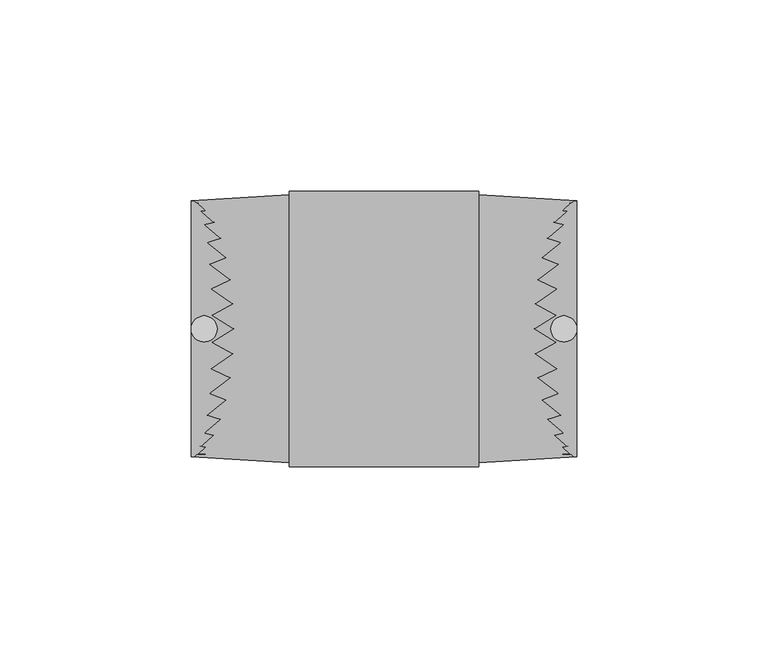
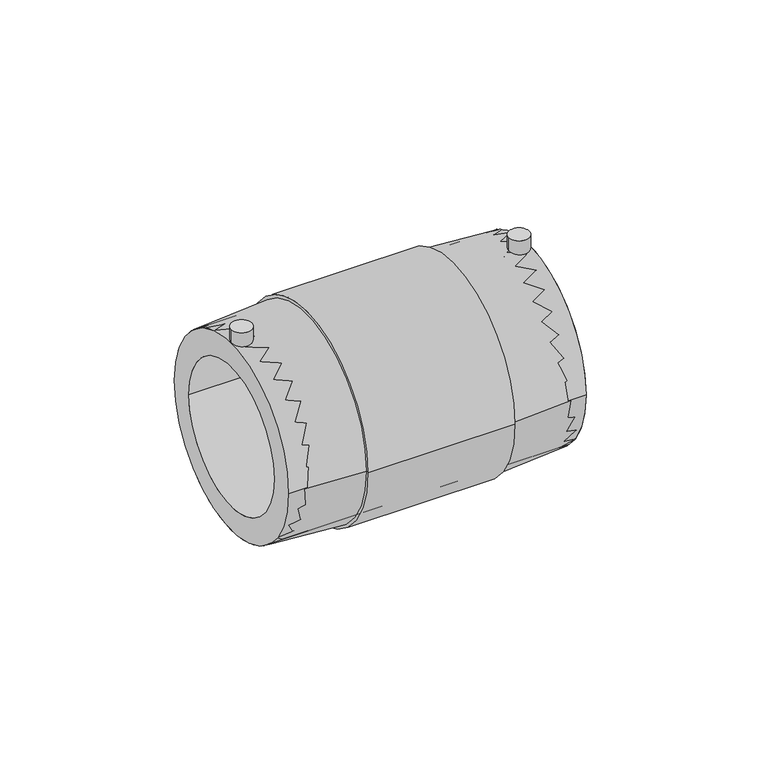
"""IFC4 building model written with IfcOpenShell, lengths in millimetres: pipe fitting geometry, EGB_VASEN_ PPR_Manguito electrosoldable WXRD100 : Manguito electrosoldable WXRD100."""

from ifc_helpers import new_model, si_unit, point, frame, frame_2d, origin, origin_2d, place, context, project, spatial, polyline, circle_curve, trimmed, segment, composite_curve, outline, extrude, source, transform, mapped, element, save
from ifc_brep_helpers import plane_surface, cylinder_surface, revolved_surface, advanced_brep


def pipe_fitting_bd761301(model_context):
    return source(origin(), model_context, "Body", "SolidModel", [
        extrude(outline(composite_curve([segment(trimmed(circle_curve(origin_2d(), 33.5), [point((-33.5, 0.0))], [point((33.5, 0.0))], False, "CARTESIAN"), True, "CONTINUOUS"), segment(trimmed(circle_curve(origin_2d(), 33.5), [point((33.5, 0.0))], [point((-33.5, 0.0))], False, "CARTESIAN"), True, "CONTINUOUS")], self_intersect=False), holes=[composite_curve([segment(trimmed(circle_curve(origin_2d(), 25.0), [point((-25.0, 0.0))], [point((25.0, 0.0))], True, "CARTESIAN"), True, "CONTINUOUS"), segment(trimmed(circle_curve(origin_2d(), 25.0), [point((25.0, 0.0))], [point((-25.0, 0.0))], True, "CARTESIAN"), True, "CONTINUOUS")], self_intersect=False)]), frame((-50.5, 0.0, 0.0), z_axis=(1.0, 0.0, 0.0), x_axis=(0.0, 1.0, 0.0)), (0.0, 0.0, 1.0), 101.0),
        extrude(outline(composite_curve([segment(trimmed(circle_curve(frame_2d((-47.0878802, 0.0)), 3.4121198), [point((-50.5, 0.0))], [point((-43.6757605, 0.0))], False, "CARTESIAN"), True, "CONTINUOUS"), segment(trimmed(circle_curve(frame_2d((-47.0878802, 0.0)), 3.4121198), [point((-43.6757605, 0.0))], [point((-50.5, 0.0))], False, "CARTESIAN"), True, "CONTINUOUS")], self_intersect=False)), frame((0.0, 0.0, 27.0), z_axis=(0.0, 0.0, 1.0), x_axis=(1.0, 0.0, 0.0)), (0.0, 0.0, 1.0), 11.5),
        extrude(outline(composite_curve([segment(trimmed(circle_curve(frame_2d((47.0878802, 0.0)), 3.4121198), [point((43.6757605, 0.0))], [point((50.5, 0.0))], False, "CARTESIAN"), True, "CONTINUOUS"), segment(trimmed(circle_curve(frame_2d((47.0878802, 0.0)), 3.4121198), [point((50.5, 0.0))], [point((43.6757605, 0.0))], False, "CARTESIAN"), True, "CONTINUOUS")], self_intersect=False)), frame((0.0, 0.0, 27.0), z_axis=(0.0, 0.0, 1.0), x_axis=(1.0, 0.0, 0.0)), (0.0, 0.0, 1.0), 11.5),
        advanced_brep(
        [(24.85, -35.082849, 0.0), (24.85, 35.082849, 0.0), (50.5, 33.5, 0.0), (50.5, -33.5, 0.0), (24.85, -36.082849, 0.0), (24.85, 36.082849, 0.0), (-24.85, -36.082849, 0.0), (-24.85, 36.082849, 0.0), (-24.85, -35.082849, 0.0), (-24.85, 35.082849, 0.0), (-50.5, -33.5, 0.0), (-50.5, 33.5, 0.0)],
        [
            (0, 1, circle_curve(frame((24.85, 0.0, 0.0), z_axis=(1.0, 0.0, 0.0), x_axis=(0.0, 1.0, 0.0)), 35.082849)),
            (1, 2),
            (2, 3, circle_curve(frame((50.5, 0.0, 0.0), z_axis=(-1.0, 0.0, 0.0), x_axis=(0.0, 1.0, 0.0)), 33.5)),
            (3, 0),
            (1, 0, circle_curve(frame((24.85, 0.0, 0.0), z_axis=(1.0, 0.0, 0.0), x_axis=(0.0, 1.0, 0.0)), 35.082849)),
            (3, 2, circle_curve(frame((50.5, 0.0, 0.0), z_axis=(-1.0, 0.0, 0.0), x_axis=(0.0, 1.0, 0.0)), 33.5)),
            (4, 5, circle_curve(frame((24.85, 0.0, 0.0), z_axis=(1.0, 0.0, 0.0), x_axis=(0.0, 1.0, 0.0)), 36.082849)),
            (5, 1),
            (0, 4),
            (5, 4, circle_curve(frame((24.85, 0.0, 0.0), z_axis=(1.0, 0.0, 0.0), x_axis=(0.0, 1.0, 0.0)), 36.082849)),
            (6, 7, circle_curve(frame((-24.85, 0.0, 0.0), z_axis=(1.0, 0.0, 0.0), x_axis=(0.0, 1.0, 0.0)), 36.082849)),
            (7, 5),
            (4, 6),
            (7, 6, circle_curve(frame((-24.85, 0.0, 0.0), z_axis=(1.0, 0.0, 0.0), x_axis=(0.0, 1.0, 0.0)), 36.082849)),
            (8, 9, circle_curve(frame((-24.85, 0.0, 0.0), z_axis=(1.0, 0.0, 0.0), x_axis=(0.0, 1.0, 0.0)), 35.082849)),
            (9, 7),
            (6, 8),
            (9, 8, circle_curve(frame((-24.85, 0.0, 0.0), z_axis=(1.0, 0.0, 0.0), x_axis=(0.0, 1.0, 0.0)), 35.082849)),
            (10, 11, circle_curve(frame((-50.5, 0.0, 0.0), z_axis=(1.0, 0.0, 0.0), x_axis=(0.0, 1.0, 0.0)), 33.5)),
            (11, 9),
            (8, 10),
            (11, 10, circle_curve(frame((-50.5, 0.0, 0.0), z_axis=(1.0, 0.0, 0.0), x_axis=(0.0, 1.0, 0.0)), 33.5)),
            (2, 11),
            (10, 3),
        ],
        [
            revolved_surface(polyline([(50.5, 33.5, 0.0), (24.85, 35.082849, 0.0)]), (-44.2721997, 0.0, 0.0), (-1.0, 0.0, 0.0)),
            plane_surface(frame((24.85, 0.0, 0.0), z_axis=(1.0, 0.0, 0.0), x_axis=(0.0, 1.0, 0.0))),
            cylinder_surface(frame((-44.2721997, 0.0, 0.0), z_axis=(-1.0, 0.0, 0.0), x_axis=(0.0, 1.0, 0.0)), 36.082849),
            plane_surface(frame((-24.85, 0.0, 0.0), z_axis=(-1.0, 0.0, 0.0), x_axis=(0.0, 1.0, 0.0))),
            revolved_surface(polyline([(-24.85, 35.082849, 0.0), (-50.5, 33.5, 0.0)]), (-44.2721997, 0.0, 0.0), (-1.0, 0.0, 0.0)),
            revolved_surface(polyline([(-50.5, 33.5, 0.0), (50.5, 33.5, 0.0)]), (-44.2721997, 0.0, 0.0), (-1.0, 0.0, 0.0)),
        ],
        [
            (0, [[1, 2, 3, 4]]),
            (0, [[5, -4, 6, -2]]),
            (1, [[7, 8, -1, 9]]),
            (1, [[10, -9, -5, -8]]),
            (2, [[11, 12, -7, 13]]),
            (2, [[14, -13, -10, -12]]),
            (3, [[15, 16, -11, 17]]),
            (3, [[18, -17, -14, -16]]),
            (4, [[19, 20, -15, 21]]),
            (4, [[22, -21, -18, -20]]),
            (5, [[-3, 23, -19, 24]]),
            (5, [[-6, -24, -22, -23]]),
        ],
    ),
    ])


if __name__ == "__main__":
    model = new_model("IFC4")
    model_context = context("Model", 3, world=origin())
    ifc_project = project(units=[si_unit("LENGTHUNIT", "METRE", prefix="MILLI")], contexts=[model_context])
    site = spatial("IfcSite", under=ifc_project)
    building = spatial("IfcBuilding", under=site)
    placement = place(None, origin())
    pipe_fitting_shape = pipe_fitting_bd761301(model_context)
    element("IfcPipeFitting", 1, ObjectType="EGB_VASEN_ PPR_Manguito electrosoldable WXRD100 : Manguito electrosoldable WXRD100", at=placement, inside=building, context=model_context, shape_type="MappedRepresentation", body=[
        mapped(pipe_fitting_shape, transform((0.0, 0.0, 0.0), x_axis=(1.0, 0.0, 0.0), y_axis=(0.0, 1.0, 0.0), z_axis=(0.0, 0.0, 1.0))),
    ])
    save(model, "model.ifc")
